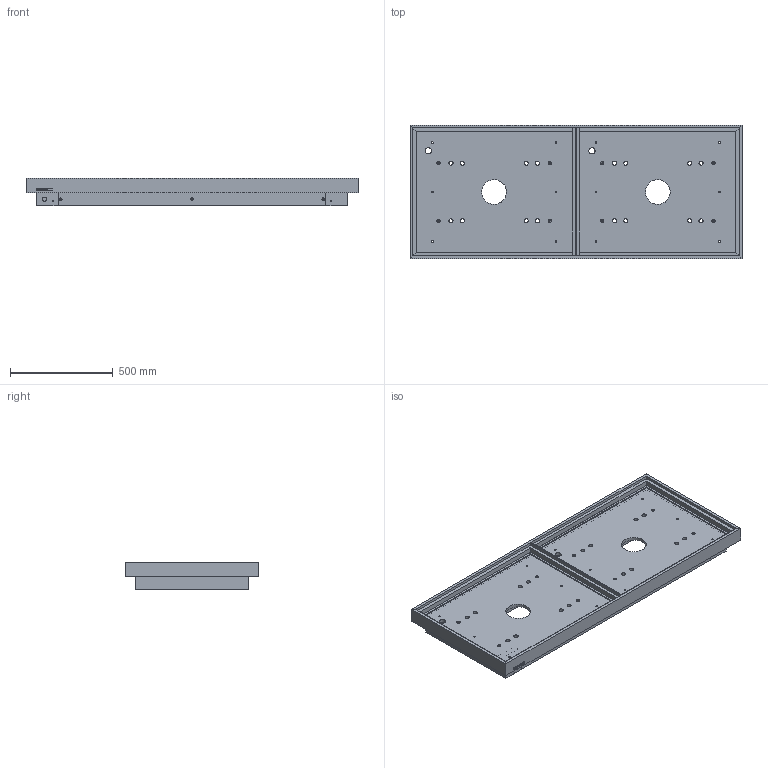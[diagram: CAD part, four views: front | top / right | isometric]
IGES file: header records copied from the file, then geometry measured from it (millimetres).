
Global section: file name: 80001; native system: Autodesk Inventor 2014; preprocessor: unknown; author: Robertom; date: 20140526.111120; units: millimetre
Bounding box: 1613 x 650 x 135 mm (x, y, z)
Volume: 37612838.1 mm3; surface area: 5476220.8 mm2
Topology: 33 solids, 33 shells, 694 faces, 1860 edges, 1274 vertices
Faces by surface type: bspline 694
